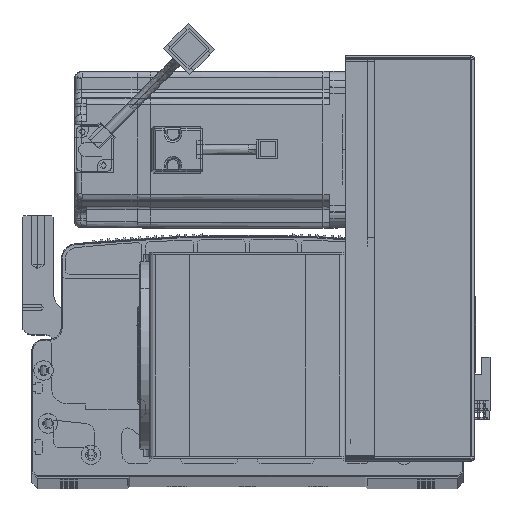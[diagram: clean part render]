
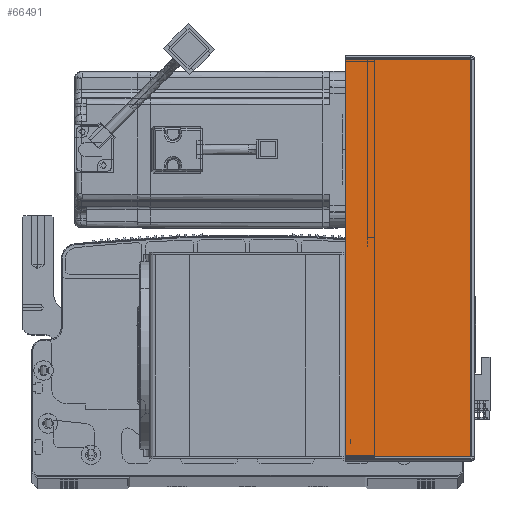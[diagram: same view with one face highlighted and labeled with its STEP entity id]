
A CAD part, top view. The second image highlights one B-rep face of the part: STEP entity #66491.
In plain terms, the highlighted planar face has unit normal (0, 0, 1) as drawn and (0, -1, 0) by its records, which use the part's own axes.
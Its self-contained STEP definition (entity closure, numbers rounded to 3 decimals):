
#949 = DIRECTION ( 'NONE',  ( -1., 0., 0. ) ) ;
#1620 = CARTESIAN_POINT ( 'NONE',  ( 0., -1.5, 0. ) ) ;
#3992 = FACE_OUTER_BOUND ( 'NONE', #21586, .T. ) ;
#5146 = VECTOR ( 'NONE', #73770, 1000. ) ;
#7005 = EDGE_CURVE ( 'NONE', #31206, #60414, #63544, .T. ) ;
#18625 = LINE ( 'NONE', #50147, #73611 ) ;
#20297 = EDGE_CURVE ( 'NONE', #75820, #60414, #18625, .T. ) ;
#20797 = ORIENTED_EDGE ( 'NONE', *, *, #7005, .F. ) ;
#21586 = EDGE_LOOP ( 'NONE', ( #43697, #75302, #85310, #20797 ) ) ;
#23360 = CARTESIAN_POINT ( 'NONE',  ( 0., -1.5, -203.293 ) ) ;
#29698 = CARTESIAN_POINT ( 'NONE',  ( 64.5, -1.5, -203.293 ) ) ;
#31206 = VERTEX_POINT ( 'NONE', #83134 ) ;
#37624 = EDGE_CURVE ( 'NONE', #44041, #75820, #87697, .T. ) ;
#43657 = CARTESIAN_POINT ( 'NONE',  ( 0.737, -1.5, 0. ) ) ;
#43697 = ORIENTED_EDGE ( 'NONE', *, *, #61562, .F. ) ;
#44041 = VERTEX_POINT ( 'NONE', #64297 ) ;
#47332 = DIRECTION ( 'NONE',  ( 1., 0., 0. ) ) ;
#50147 = CARTESIAN_POINT ( 'NONE',  ( 64.5, -1.5, 0. ) ) ;
#55027 = DIRECTION ( 'NONE',  ( 1., 0., 0. ) ) ;
#56529 = LINE ( 'NONE', #43657, #5146 ) ;
#60414 = VERTEX_POINT ( 'NONE', #79030 ) ;
#61134 = VECTOR ( 'NONE', #47332, 1000. ) ;
#61562 = EDGE_CURVE ( 'NONE', #44041, #31206, #56529, .T. ) ;
#61747 = DIRECTION ( 'NONE',  ( 0., 1., 0. ) ) ;
#63544 = LINE ( 'NONE', #91157, #61134 ) ;
#64297 = CARTESIAN_POINT ( 'NONE',  ( 0.737, -1.5, -203.293 ) ) ;
#66491 = ADVANCED_FACE ( 'NONE', ( #3992 ), #85147, .F. ) ;
#69745 = VECTOR ( 'NONE', #55027, 1000. ) ;
#72370 = AXIS2_PLACEMENT_3D ( 'NONE', #1620, #61747, #949 ) ;
#73255 = DIRECTION ( 'NONE',  ( 0., 0., 1. ) ) ;
#73611 = VECTOR ( 'NONE', #73255, 1000. ) ;
#73770 = DIRECTION ( 'NONE',  ( 0., 0., 1. ) ) ;
#75302 = ORIENTED_EDGE ( 'NONE', *, *, #37624, .T. ) ;
#75820 = VERTEX_POINT ( 'NONE', #29698 ) ;
#79030 = CARTESIAN_POINT ( 'NONE',  ( 64.5, -1.5, -0.707 ) ) ;
#83134 = CARTESIAN_POINT ( 'NONE',  ( 0.737, -1.5, -0.707 ) ) ;
#85147 = PLANE ( 'NONE',  #72370 ) ;
#85310 = ORIENTED_EDGE ( 'NONE', *, *, #20297, .T. ) ;
#87697 = LINE ( 'NONE', #23360, #69745 ) ;
#91157 = CARTESIAN_POINT ( 'NONE',  ( 0., -1.5, -0.707 ) ) ;
